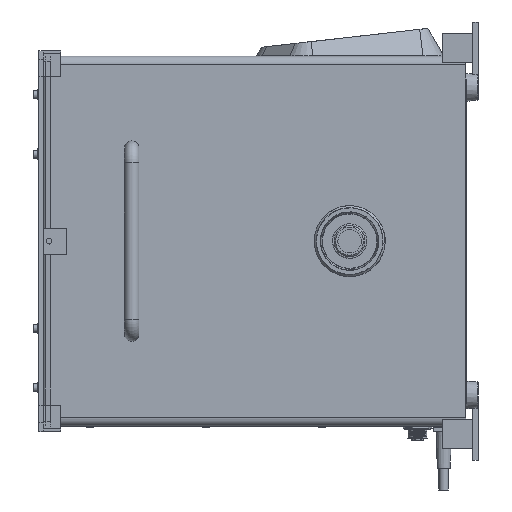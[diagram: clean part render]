
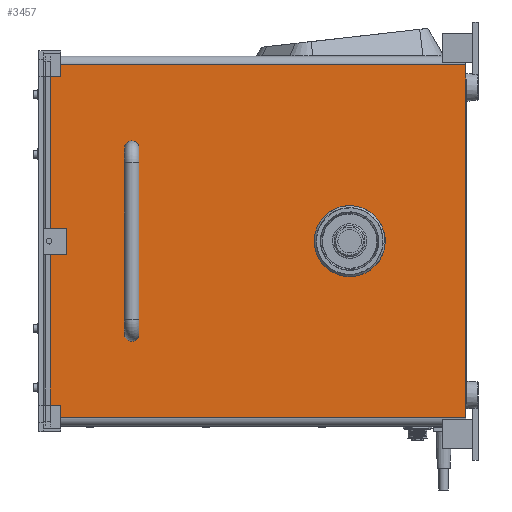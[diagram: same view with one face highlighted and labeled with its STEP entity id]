
A CAD part, left-side view. The second image highlights one B-rep face of the part: STEP entity #3457.
In plain terms, the highlighted planar face has unit normal (-1, 0, 0).
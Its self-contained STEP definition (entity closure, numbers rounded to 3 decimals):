
#960 = CYLINDRICAL_SURFACE('',#961,0.85);
#961 = AXIS2_PLACEMENT_3D('',#962,#963,#964);
#962 = CARTESIAN_POINT('',(-156.65,-289.,-111.7));
#963 = DIRECTION('',(0.,0.,-1.));
#964 = DIRECTION('',(1.,0.,0.));
#976 = VERTEX_POINT('',#977);
#977 = CARTESIAN_POINT('',(-157.5,-289.,-121.7));
#998 = PLANE('',#999);
#999 = AXIS2_PLACEMENT_3D('',#1000,#1001,#1002);
#1000 = CARTESIAN_POINT('',(-151.7,-289.,-126.7));
#1001 = DIRECTION('',(0.,-1.,0.));
#1002 = DIRECTION('',(0.,-0.,-1.));
#1027 = CYLINDRICAL_SURFACE('',#1028,5.8);
#1028 = AXIS2_PLACEMENT_3D('',#1029,#1030,#1031);
#1029 = CARTESIAN_POINT('',(-151.7,-289.,-121.7));
#1030 = DIRECTION('',(0.,1.,0.));
#1031 = DIRECTION('',(0.,-0.,1.));
#1126 = VERTEX_POINT('',#1127);
#1127 = CARTESIAN_POINT('',(-157.5,-289.,-111.7));
#1153 = EDGE_CURVE('',#1126,#976,#1154,.T.);
#1154 = SURFACE_CURVE('',#1155,(#1159,#1166),.PCURVE_S1.);
#1155 = LINE('',#1156,#1157);
#1156 = CARTESIAN_POINT('',(-157.5,-289.,-127.5));
#1157 = VECTOR('',#1158,1.);
#1158 = DIRECTION('',(0.,0.,-1.));
#1159 = PCURVE('',#998,#1160);
#1160 = DEFINITIONAL_REPRESENTATION('',(#1161),#1165);
#1161 = LINE('',#1162,#1163);
#1162 = CARTESIAN_POINT('',(0.8,-5.8));
#1163 = VECTOR('',#1164,1.);
#1164 = DIRECTION('',(1.,0.));
#1165 = ( GEOMETRIC_REPRESENTATION_CONTEXT(2) 
PARAMETRIC_REPRESENTATION_CONTEXT() REPRESENTATION_CONTEXT('2D SPACE',''
  ) );
#1166 = PCURVE('',#1167,#1172);
#1167 = PLANE('',#1168);
#1168 = AXIS2_PLACEMENT_3D('',#1169,#1170,#1171);
#1169 = CARTESIAN_POINT('',(-157.5,-289.,-127.5));
#1170 = DIRECTION('',(1.,0.,0.));
#1171 = DIRECTION('',(0.,0.,-1.));
#1172 = DEFINITIONAL_REPRESENTATION('',(#1173),#1177);
#1173 = LINE('',#1174,#1175);
#1174 = CARTESIAN_POINT('',(0.,0.));
#1175 = VECTOR('',#1176,1.);
#1176 = DIRECTION('',(1.,0.));
#1177 = ( GEOMETRIC_REPRESENTATION_CONTEXT(2) 
PARAMETRIC_REPRESENTATION_CONTEXT() REPRESENTATION_CONTEXT('2D SPACE',''
  ) );
#1248 = EDGE_CURVE('',#1126,#1249,#1251,.T.);
#1249 = VERTEX_POINT('',#1250);
#1250 = CARTESIAN_POINT('',(-157.5,-289.,111.7));
#1251 = SURFACE_CURVE('',#1252,(#1256,#1263),.PCURVE_S1.);
#1252 = LINE('',#1253,#1254);
#1253 = CARTESIAN_POINT('',(-157.5,-289.,-111.7));
#1254 = VECTOR('',#1255,1.);
#1255 = DIRECTION('',(0.,-0.,1.));
#1256 = PCURVE('',#960,#1257);
#1257 = DEFINITIONAL_REPRESENTATION('',(#1258),#1262);
#1258 = LINE('',#1259,#1260);
#1259 = CARTESIAN_POINT('',(3.142,0.));
#1260 = VECTOR('',#1261,1.);
#1261 = DIRECTION('',(0.,-1.));
#1262 = ( GEOMETRIC_REPRESENTATION_CONTEXT(2) 
PARAMETRIC_REPRESENTATION_CONTEXT() REPRESENTATION_CONTEXT('2D SPACE',''
  ) );
#1263 = PCURVE('',#1167,#1264);
#1264 = DEFINITIONAL_REPRESENTATION('',(#1265),#1269);
#1265 = LINE('',#1266,#1267);
#1266 = CARTESIAN_POINT('',(-15.8,0.));
#1267 = VECTOR('',#1268,1.);
#1268 = DIRECTION('',(-1.,0.));
#1269 = ( GEOMETRIC_REPRESENTATION_CONTEXT(2) 
PARAMETRIC_REPRESENTATION_CONTEXT() REPRESENTATION_CONTEXT('2D SPACE',''
  ) );
#1350 = PLANE('',#1351);
#1351 = AXIS2_PLACEMENT_3D('',#1352,#1353,#1354);
#1352 = CARTESIAN_POINT('',(-151.7,-289.,-126.7));
#1353 = DIRECTION('',(0.,-1.,0.));
#1354 = DIRECTION('',(0.,-0.,-1.));
#1391 = VERTEX_POINT('',#1392);
#1392 = CARTESIAN_POINT('',(-157.5,-289.,121.7));
#1418 = EDGE_CURVE('',#1391,#1249,#1419,.T.);
#1419 = SURFACE_CURVE('',#1420,(#1424,#1431),.PCURVE_S1.);
#1420 = LINE('',#1421,#1422);
#1421 = CARTESIAN_POINT('',(-157.5,-289.,-127.5));
#1422 = VECTOR('',#1423,1.);
#1423 = DIRECTION('',(0.,0.,-1.));
#1424 = PCURVE('',#1350,#1425);
#1425 = DEFINITIONAL_REPRESENTATION('',(#1426),#1430);
#1426 = LINE('',#1427,#1428);
#1427 = CARTESIAN_POINT('',(0.8,-5.8));
#1428 = VECTOR('',#1429,1.);
#1429 = DIRECTION('',(1.,0.));
#1430 = ( GEOMETRIC_REPRESENTATION_CONTEXT(2) 
PARAMETRIC_REPRESENTATION_CONTEXT() REPRESENTATION_CONTEXT('2D SPACE',''
  ) );
#1431 = PCURVE('',#1167,#1432);
#1432 = DEFINITIONAL_REPRESENTATION('',(#1433),#1437);
#1433 = LINE('',#1434,#1435);
#1434 = CARTESIAN_POINT('',(0.,0.));
#1435 = VECTOR('',#1436,1.);
#1436 = DIRECTION('',(1.,0.));
#1437 = ( GEOMETRIC_REPRESENTATION_CONTEXT(2) 
PARAMETRIC_REPRESENTATION_CONTEXT() REPRESENTATION_CONTEXT('2D SPACE',''
  ) );
#1487 = CYLINDRICAL_SURFACE('',#1488,5.8);
#1488 = AXIS2_PLACEMENT_3D('',#1489,#1490,#1491);
#1489 = CARTESIAN_POINT('',(-151.7,-289.,121.7));
#1490 = DIRECTION('',(0.,1.,0.));
#1491 = DIRECTION('',(0.,-0.,1.));
#3419 = VERTEX_POINT('',#3420);
#3420 = CARTESIAN_POINT('',(-157.5,0.,-121.7));
#3437 = EDGE_CURVE('',#976,#3419,#3438,.T.);
#3438 = SURFACE_CURVE('',#3439,(#3443,#3450),.PCURVE_S1.);
#3439 = LINE('',#3440,#3441);
#3440 = CARTESIAN_POINT('',(-157.5,-289.,-121.7));
#3441 = VECTOR('',#3442,1.);
#3442 = DIRECTION('',(0.,1.,0.));
#3443 = PCURVE('',#1027,#3444);
#3444 = DEFINITIONAL_REPRESENTATION('',(#3445),#3449);
#3445 = LINE('',#3446,#3447);
#3446 = CARTESIAN_POINT('',(4.712,0.));
#3447 = VECTOR('',#3448,1.);
#3448 = DIRECTION('',(0.,1.));
#3449 = ( GEOMETRIC_REPRESENTATION_CONTEXT(2) 
PARAMETRIC_REPRESENTATION_CONTEXT() REPRESENTATION_CONTEXT('2D SPACE',''
  ) );
#3450 = PCURVE('',#1167,#3451);
#3451 = DEFINITIONAL_REPRESENTATION('',(#3452),#3456);
#3452 = LINE('',#3453,#3454);
#3453 = CARTESIAN_POINT('',(-5.8,0.));
#3454 = VECTOR('',#3455,1.);
#3455 = DIRECTION('',(0.,1.));
#3456 = ( GEOMETRIC_REPRESENTATION_CONTEXT(2) 
PARAMETRIC_REPRESENTATION_CONTEXT() REPRESENTATION_CONTEXT('2D SPACE',''
  ) );
#3457 = ADVANCED_FACE('',(#3458,#3477,#3496,#3515),#1167,.F.);
#3458 = FACE_BOUND('',#3459,.T.);
#3459 = EDGE_LOOP('',(#3460));
#3460 = ORIENTED_EDGE('',*,*,#3461,.T.);
#3461 = EDGE_CURVE('',#3462,#3462,#3464,.T.);
#3462 = VERTEX_POINT('',#3463);
#3463 = CARTESIAN_POINT('',(-157.5,-209.15,-20.25));
#3464 = SURFACE_CURVE('',#3465,(#3470),.PCURVE_S1.);
#3465 = CIRCLE('',#3466,20.25);
#3466 = AXIS2_PLACEMENT_3D('',#3467,#3468,#3469);
#3467 = CARTESIAN_POINT('',(-157.5,-209.15,0.));
#3468 = DIRECTION('',(1.,0.,0.));
#3469 = DIRECTION('',(0.,-0.,-1.));
#3470 = PCURVE('',#1167,#3471);
#3471 = DEFINITIONAL_REPRESENTATION('',(#3472),#3476);
#3472 = CIRCLE('',#3473,20.25);
#3473 = AXIS2_PLACEMENT_2D('',#3474,#3475);
#3474 = CARTESIAN_POINT('',(-127.5,79.85));
#3475 = DIRECTION('',(1.,-0.));
#3476 = ( GEOMETRIC_REPRESENTATION_CONTEXT(2) 
PARAMETRIC_REPRESENTATION_CONTEXT() REPRESENTATION_CONTEXT('2D SPACE',''
  ) );
#3477 = FACE_BOUND('',#3478,.T.);
#3478 = EDGE_LOOP('',(#3479));
#3479 = ORIENTED_EDGE('',*,*,#3480,.T.);
#3480 = EDGE_CURVE('',#3481,#3481,#3483,.T.);
#3481 = VERTEX_POINT('',#3482);
#3482 = CARTESIAN_POINT('',(-157.5,-59.,61.9));
#3483 = SURFACE_CURVE('',#3484,(#3489),.PCURVE_S1.);
#3484 = CIRCLE('',#3485,2.1);
#3485 = AXIS2_PLACEMENT_3D('',#3486,#3487,#3488);
#3486 = CARTESIAN_POINT('',(-157.5,-59.,64.));
#3487 = DIRECTION('',(1.,-0.,0.));
#3488 = DIRECTION('',(0.,0.,-1.));
#3489 = PCURVE('',#1167,#3490);
#3490 = DEFINITIONAL_REPRESENTATION('',(#3491),#3495);
#3491 = CIRCLE('',#3492,2.1);
#3492 = AXIS2_PLACEMENT_2D('',#3493,#3494);
#3493 = CARTESIAN_POINT('',(-191.5,230.));
#3494 = DIRECTION('',(1.,0.));
#3495 = ( GEOMETRIC_REPRESENTATION_CONTEXT(2) 
PARAMETRIC_REPRESENTATION_CONTEXT() REPRESENTATION_CONTEXT('2D SPACE',''
  ) );
#3496 = FACE_BOUND('',#3497,.T.);
#3497 = EDGE_LOOP('',(#3498));
#3498 = ORIENTED_EDGE('',*,*,#3499,.T.);
#3499 = EDGE_CURVE('',#3500,#3500,#3502,.T.);
#3500 = VERTEX_POINT('',#3501);
#3501 = CARTESIAN_POINT('',(-157.5,-59.,-66.1));
#3502 = SURFACE_CURVE('',#3503,(#3508),.PCURVE_S1.);
#3503 = CIRCLE('',#3504,2.1);
#3504 = AXIS2_PLACEMENT_3D('',#3505,#3506,#3507);
#3505 = CARTESIAN_POINT('',(-157.5,-59.,-64.));
#3506 = DIRECTION('',(1.,-0.,0.));
#3507 = DIRECTION('',(0.,0.,-1.));
#3508 = PCURVE('',#1167,#3509);
#3509 = DEFINITIONAL_REPRESENTATION('',(#3510),#3514);
#3510 = CIRCLE('',#3511,2.1);
#3511 = AXIS2_PLACEMENT_2D('',#3512,#3513);
#3512 = CARTESIAN_POINT('',(-63.5,230.));
#3513 = DIRECTION('',(1.,0.));
#3514 = ( GEOMETRIC_REPRESENTATION_CONTEXT(2) 
PARAMETRIC_REPRESENTATION_CONTEXT() REPRESENTATION_CONTEXT('2D SPACE',''
  ) );
#3515 = FACE_BOUND('',#3516,.T.);
#3516 = EDGE_LOOP('',(#3517,#3533,#3534,#3535,#3536,#3537));
#3517 = ORIENTED_EDGE('',*,*,#3518,.T.);
#3518 = EDGE_CURVE('',#3519,#3419,#3521,.T.);
#3519 = VERTEX_POINT('',#3520);
#3520 = CARTESIAN_POINT('',(-157.5,0.,121.7));
#3521 = SURFACE_CURVE('',#3522,(#3526),.PCURVE_S1.);
#3522 = LINE('',#3523,#3524);
#3523 = CARTESIAN_POINT('',(-157.5,0.,-127.5));
#3524 = VECTOR('',#3525,1.);
#3525 = DIRECTION('',(0.,0.,-1.));
#3526 = PCURVE('',#1167,#3527);
#3527 = DEFINITIONAL_REPRESENTATION('',(#3528),#3532);
#3528 = LINE('',#3529,#3530);
#3529 = CARTESIAN_POINT('',(0.,289.));
#3530 = VECTOR('',#3531,1.);
#3531 = DIRECTION('',(1.,0.));
#3532 = ( GEOMETRIC_REPRESENTATION_CONTEXT(2) 
PARAMETRIC_REPRESENTATION_CONTEXT() REPRESENTATION_CONTEXT('2D SPACE',''
  ) );
#3533 = ORIENTED_EDGE('',*,*,#3437,.F.);
#3534 = ORIENTED_EDGE('',*,*,#1153,.F.);
#3535 = ORIENTED_EDGE('',*,*,#1248,.T.);
#3536 = ORIENTED_EDGE('',*,*,#1418,.F.);
#3537 = ORIENTED_EDGE('',*,*,#3538,.T.);
#3538 = EDGE_CURVE('',#1391,#3519,#3539,.T.);
#3539 = SURFACE_CURVE('',#3540,(#3544,#3551),.PCURVE_S1.);
#3540 = LINE('',#3541,#3542);
#3541 = CARTESIAN_POINT('',(-157.5,-289.,121.7));
#3542 = VECTOR('',#3543,1.);
#3543 = DIRECTION('',(0.,1.,0.));
#3544 = PCURVE('',#1167,#3545);
#3545 = DEFINITIONAL_REPRESENTATION('',(#3546),#3550);
#3546 = LINE('',#3547,#3548);
#3547 = CARTESIAN_POINT('',(-249.2,0.));
#3548 = VECTOR('',#3549,1.);
#3549 = DIRECTION('',(0.,1.));
#3550 = ( GEOMETRIC_REPRESENTATION_CONTEXT(2) 
PARAMETRIC_REPRESENTATION_CONTEXT() REPRESENTATION_CONTEXT('2D SPACE',''
  ) );
#3551 = PCURVE('',#1487,#3552);
#3552 = DEFINITIONAL_REPRESENTATION('',(#3553),#3557);
#3553 = LINE('',#3554,#3555);
#3554 = CARTESIAN_POINT('',(4.712,0.));
#3555 = VECTOR('',#3556,1.);
#3556 = DIRECTION('',(0.,1.));
#3557 = ( GEOMETRIC_REPRESENTATION_CONTEXT(2) 
PARAMETRIC_REPRESENTATION_CONTEXT() REPRESENTATION_CONTEXT('2D SPACE',''
  ) );
